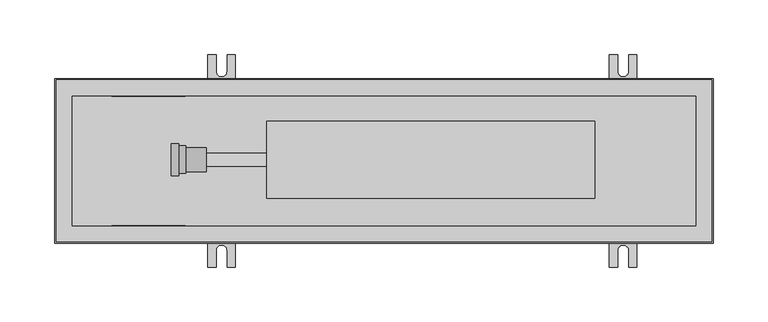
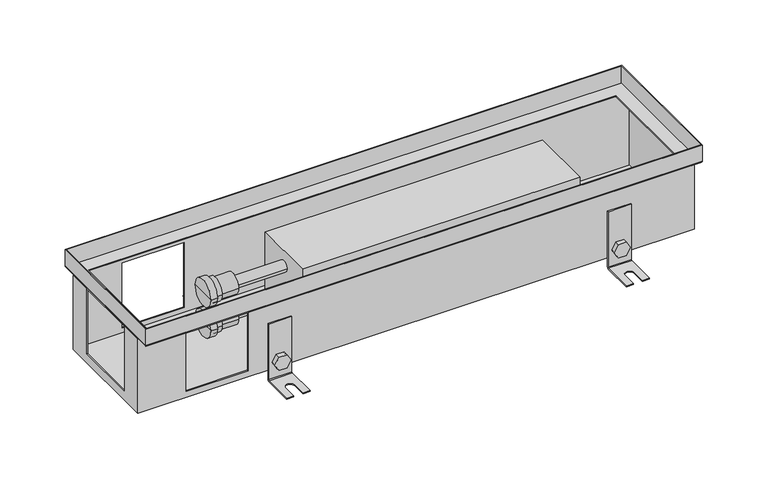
"""IFC4 building model written with IfcOpenShell, lengths in millimetres: proxy geometry, TECHNO_Конвектор встраиваемый_Power_KVZ_150_65-85-105 : KVZ 150-105."""

from ifc_helpers import new_model, si_unit, point, frame, frame_2d, origin, place, context, project, spatial, polyline, circle_curve, ellipse_curve, trimmed, segment, composite_curve, outline, extrude, faceted_brep, source, transform, mapped, element, save
from ifc_brep_helpers import plane_surface, cylinder_surface, revolved_surface, advanced_brep


def mechanical_equipment_09c1ba0b(model_context):
    return source(origin(), model_context, "Body", "SolidModel", [
        extrude(outline(composite_curve([segment(trimmed(circle_curve(frame_2d((-95.5, 518.0)), 7.5), [point((-95.5, 510.5))], [point((-95.5, 525.5))], False, "CARTESIAN"), True, "CONTINUOUS"), segment(trimmed(circle_curve(frame_2d((-95.5, 518.0)), 7.5), [point((-95.5, 525.5))], [point((-95.5, 510.5))], False, "CARTESIAN"), True, "CONTINUOUS")], self_intersect=False)), frame((0.0, 60.2, 0.0), z_axis=(0.0, 1.0, 0.0), x_axis=(0.0, 0.0, 1.0)), (0.0, 0.0, 1.0), 1.5),
        extrude(outline(polyline([(-95.5, 509.339746), (-103.0, 513.669873), (-103.0, 522.330127), (-95.5, 526.660254), (-88.0, 522.330127), (-88.0, 513.669873), (-95.5, 509.339746)])), frame((0.0, 62.9, 0.0), z_axis=(0.0, 1.0, 0.0), x_axis=(0.0, 0.0, 1.0)), (0.0, 0.0, 1.0), 5.1),
        advanced_brep(
        [(530.5, 62.9, -50.5), (530.5, 61.7, -50.5), (530.5, 61.7, -113.5), (530.5, 63.7, -115.5), (530.5, 96.7, -115.5), (530.5, 96.7, -114.3), (530.5, 63.7, -114.3), (530.5, 62.9, -113.5), (505.5, 62.9, -50.5), (505.5, 62.9, -113.5), (505.5, 63.7, -114.3), (505.5, 96.7, -114.3), (505.5, 96.7, -115.5), (505.5, 63.7, -115.5), (505.5, 61.7, -113.5), (505.5, 61.7, -50.5), (523.0, 96.7, -114.3), (523.0, 81.7, -114.3), (513.0, 81.7, -114.3), (513.0, 96.7, -114.3), (513.0, 96.7, -115.5), (523.0, 96.7, -115.5), (513.0, 81.7, -115.5), (523.0, 81.7, -115.5)],
        [
            (0, 1),
            (1, 2),
            (2, 3, circle_curve(frame((530.5, 63.7, -113.5), z_axis=(1.0, 0.0, 0.0), x_axis=(0.0, 1.0, 0.0)), 2.0)),
            (3, 4),
            (4, 5),
            (5, 6),
            (6, 7, circle_curve(frame((530.5, 63.7, -113.5), z_axis=(-1.0, 0.0, 0.0), x_axis=(0.0, 1.0, 0.0)), 0.8)),
            (7, 0),
            (8, 9),
            (9, 10, circle_curve(frame((505.5, 63.7, -113.5), z_axis=(1.0, 0.0, 0.0), x_axis=(0.0, 1.0, 0.0)), 0.8)),
            (10, 11),
            (11, 12),
            (12, 13),
            (13, 14, circle_curve(frame((505.5, 63.7, -113.5), z_axis=(-1.0, 0.0, 0.0), x_axis=(0.0, 1.0, 0.0)), 2.0)),
            (14, 15),
            (15, 8),
            (7, 9),
            (8, 0),
            (6, 10),
            (5, 16),
            (16, 17),
            (17, 18, circle_curve(frame((518.0, 81.7, -114.3), z_axis=(0.0, 0.0, -1.0), x_axis=(1.0, 0.0, 0.0)), 5.0)),
            (18, 19),
            (19, 11),
            (19, 20),
            (20, 12),
            (4, 21),
            (21, 16),
            (3, 13),
            (20, 22),
            (22, 23, circle_curve(frame((518.0, 81.7, -115.5), z_axis=(0.0, 0.0, 1.0), x_axis=(1.0, 0.0, 0.0)), 5.0)),
            (23, 21),
            (2, 14),
            (1, 15),
            (18, 22),
            (23, 17),
        ],
        [
            plane_surface(frame((530.5, 62.9, -50.5), z_axis=(1.0, 0.0, 0.0), x_axis=(0.0, 0.0, -1.0))),
            plane_surface(frame((505.5, 62.9, -50.5), z_axis=(-1.0, 0.0, 0.0), x_axis=(0.0, 0.0, 1.0))),
            plane_surface(frame((530.5, 62.9, -50.5), z_axis=(0.0, 1.0, 0.0), x_axis=(-1.0, 0.0, 0.0))),
            revolved_surface(polyline([(505.5, 64.5, -113.5), (530.5, 64.5, -113.5)]), (505.5, 63.7, -113.5), (-1.0, 0.0, 0.0)),
            plane_surface(frame((530.5, 63.7, -114.3), z_axis=(0.0, 0.0, 1.0), x_axis=(-1.0, 0.0, 0.0))),
            plane_surface(frame((530.5, 96.7, -114.3), z_axis=(0.0, 1.0, 0.0), x_axis=(-1.0, 0.0, 0.0))),
            plane_surface(frame((530.5, 96.7, -115.5), z_axis=(0.0, 0.0, -1.0), x_axis=(-1.0, 0.0, 0.0))),
            cylinder_surface(frame((505.5, 63.7, -113.5), z_axis=(1.0, 0.0, 0.0), x_axis=(0.0, 1.0, 0.0)), 2.0),
            plane_surface(frame((530.5, 61.7, -113.5), z_axis=(0.0, -1.0, 0.0), x_axis=(-1.0, 0.0, 0.0))),
            plane_surface(frame((530.5, 61.7, -50.5), z_axis=(0.0, 0.0, 1.0), x_axis=(-1.0, 0.0, 0.0))),
            plane_surface(frame((513.0, 81.7, -114.3), z_axis=(1.0, 0.0, 0.0), x_axis=(0.0, 0.0, -1.0))),
            plane_surface(frame((523.0, 96.7, -114.3), z_axis=(-1.0, 0.0, 0.0), x_axis=(0.0, 0.0, -1.0))),
            revolved_surface(polyline([(523.0, 81.7, -114.3), (523.0, 81.7, -115.5)]), (518.0, 81.7, -115.5), (0.0, 0.0, 1.0)),
        ],
        [
            (0, [[1, 2, 3, 4, 5, 6, 7, 8]]),
            (1, [[9, 10, 11, 12, 13, 14, 15, 16]]),
            (2, [[17, -9, 18, -8]]),
            (3, [[19, -10, -17, -7]]),
            (4, [[20, 21, 22, 23, 24, -11, -19, -6]]),
            (5, [[-24, 25, 26, -12]]),
            (5, [[27, 28, -20, -5]]),
            (6, [[29, -13, -26, 30, 31, 32, -27, -4]]),
            (7, [[33, -14, -29, -3]]),
            (8, [[34, -15, -33, -2]]),
            (9, [[-18, -16, -34, -1]]),
            (10, [[-30, -25, -23, 35]]),
            (11, [[-21, -28, -32, 36]]),
            (12, [[-22, -36, -31, -35]]),
        ],
    ),
        extrude(outline(composite_curve([segment(trimmed(circle_curve(frame_2d((-95.5, 518.0)), 7.5), [point((-95.5, 510.5))], [point((-95.5, 525.5))], False, "CARTESIAN"), True, "CONTINUOUS"), segment(trimmed(circle_curve(frame_2d((-95.5, 518.0)), 7.5), [point((-95.5, 525.5))], [point((-95.5, 510.5))], False, "CARTESIAN"), True, "CONTINUOUS")], self_intersect=False)), frame((0.0, -61.7, 0.0), z_axis=(0.0, 1.0, 0.0), x_axis=(0.0, 0.0, 1.0)), (0.0, 0.0, 1.0), 1.5),
        extrude(outline(polyline([(-95.5, 509.339746), (-103.0, 513.669873), (-103.0, 522.330127), (-95.5, 526.660254), (-88.0, 522.330127), (-88.0, 513.669873), (-95.5, 509.339746)])), frame((0.0, -68.0, 0.0), z_axis=(0.0, 1.0, 0.0), x_axis=(0.0, 0.0, 1.0)), (0.0, 0.0, 1.0), 5.1),
        advanced_brep(
        [(530.5, -62.9, -50.5), (530.5, -62.9, -113.5), (530.5, -63.7, -114.3), (530.5, -96.7, -114.3), (530.5, -96.7, -115.5), (530.5, -63.7, -115.5), (530.5, -61.7, -113.5), (530.5, -61.7, -50.5), (505.5, -62.9, -50.5), (505.5, -61.7, -50.5), (505.5, -61.7, -113.5), (505.5, -63.7, -115.5), (505.5, -96.7, -115.5), (505.5, -96.7, -114.3), (505.5, -63.7, -114.3), (505.5, -62.9, -113.5), (513.0, -96.7, -114.3), (513.0, -81.7, -114.3), (523.0, -81.7, -114.3), (523.0, -96.7, -114.3), (523.0, -96.7, -115.5), (513.0, -96.7, -115.5), (523.0, -81.7, -115.5), (513.0, -81.7, -115.5)],
        [
            (0, 1),
            (1, 2, circle_curve(frame((530.5, -63.7, -113.5), z_axis=(-1.0, 0.0, 0.0), x_axis=(0.0, -1.0, 0.0)), 0.8)),
            (2, 3),
            (3, 4),
            (4, 5),
            (5, 6, circle_curve(frame((530.5, -63.7, -113.5), z_axis=(1.0, 0.0, 0.0), x_axis=(0.0, -1.0, 0.0)), 2.0)),
            (6, 7),
            (7, 0),
            (8, 9),
            (9, 10),
            (10, 11, circle_curve(frame((505.5, -63.7, -113.5), z_axis=(-1.0, 0.0, 0.0), x_axis=(0.0, -1.0, 0.0)), 2.0)),
            (11, 12),
            (12, 13),
            (13, 14),
            (14, 15, circle_curve(frame((505.5, -63.7, -113.5), z_axis=(1.0, 0.0, 0.0), x_axis=(0.0, -1.0, 0.0)), 0.8)),
            (15, 8),
            (0, 8),
            (15, 1),
            (14, 2),
            (13, 16),
            (16, 17),
            (17, 18, circle_curve(frame((518.0, -81.7, -114.3), z_axis=(0.0, 0.0, -1.0), x_axis=(1.0, 0.0, 0.0)), 5.0)),
            (18, 19),
            (19, 3),
            (19, 20),
            (20, 4),
            (12, 21),
            (21, 16),
            (20, 22),
            (22, 23, circle_curve(frame((518.0, -81.7, -115.5), z_axis=(0.0, 0.0, 1.0), x_axis=(1.0, 0.0, 0.0)), 5.0)),
            (23, 21),
            (11, 5),
            (10, 6),
            (9, 7),
            (23, 17),
            (18, 22),
        ],
        [
            plane_surface(frame((530.5, -62.9, -50.5), z_axis=(1.0, 0.0, 0.0), x_axis=(0.0, 0.0, -1.0))),
            plane_surface(frame((505.5, -62.9, -50.5), z_axis=(-1.0, 0.0, 0.0), x_axis=(0.0, 0.0, 1.0))),
            plane_surface(frame((530.5, -62.9, -50.5), z_axis=(0.0, -1.0, 0.0), x_axis=(-1.0, 0.0, 0.0))),
            revolved_surface(polyline([(505.5, -64.5, -113.5), (530.5, -64.5, -113.5)]), (505.5, -63.7, -113.5), (-1.0, 0.0, 0.0)),
            plane_surface(frame((530.5, -63.7, -114.3), z_axis=(0.0, 0.0, 1.0), x_axis=(-1.0, 0.0, 0.0))),
            plane_surface(frame((530.5, -96.7, -114.3), z_axis=(0.0, -1.0, 0.0), x_axis=(-1.0, 0.0, 0.0))),
            plane_surface(frame((530.5, -96.7, -115.5), z_axis=(0.0, 0.0, -1.0), x_axis=(-1.0, 0.0, 0.0))),
            cylinder_surface(frame((505.5, -63.7, -113.5), z_axis=(1.0, 0.0, 0.0), x_axis=(0.0, -1.0, 0.0)), 2.0),
            plane_surface(frame((530.5, -61.7, -113.5), z_axis=(0.0, 1.0, 0.0), x_axis=(-1.0, 0.0, 0.0))),
            plane_surface(frame((530.5, -61.7, -50.5), z_axis=(0.0, 0.0, 1.0), x_axis=(-1.0, 0.0, 0.0))),
            plane_surface(frame((513.0, -81.7, -114.3), z_axis=(1.0, 0.0, 0.0), x_axis=(0.0, 0.0, -1.0))),
            plane_surface(frame((523.0, -96.7, -114.3), z_axis=(-1.0, 0.0, 0.0), x_axis=(0.0, 0.0, -1.0))),
            revolved_surface(polyline([(523.0, -81.7, -114.3), (523.0, -81.7, -115.5)]), (518.0, -81.7, -115.5), (0.0, 0.0, 1.0)),
        ],
        [
            (0, [[1, 2, 3, 4, 5, 6, 7, 8]]),
            (1, [[9, 10, 11, 12, 13, 14, 15, 16]]),
            (2, [[-1, 17, -16, 18]]),
            (3, [[-2, -18, -15, 19]]),
            (4, [[-3, -19, -14, 20, 21, 22, 23, 24]]),
            (5, [[-4, -24, 25, 26]]),
            (5, [[-13, 27, 28, -20]]),
            (6, [[-5, -26, 29, 30, 31, -27, -12, 32]]),
            (7, [[-6, -32, -11, 33]]),
            (8, [[-7, -33, -10, 34]]),
            (9, [[-8, -34, -9, -17]]),
            (10, [[35, -21, -28, -31]]),
            (11, [[36, -29, -25, -23]]),
            (12, [[-35, -30, -36, -22]]),
        ],
    ),
        extrude(outline(composite_curve([segment(trimmed(circle_curve(frame_2d((-95.5, 152.0)), 7.5), [point((-95.5, 144.5))], [point((-95.5, 159.5))], False, "CARTESIAN"), True, "CONTINUOUS"), segment(trimmed(circle_curve(frame_2d((-95.5, 152.0)), 7.5), [point((-95.5, 159.5))], [point((-95.5, 144.5))], False, "CARTESIAN"), True, "CONTINUOUS")], self_intersect=False)), frame((0.0, 60.2, 0.0), z_axis=(0.0, 1.0, 0.0), x_axis=(0.0, 0.0, 1.0)), (0.0, 0.0, 1.0), 1.5),
        extrude(outline(polyline([(-95.5, 143.339746), (-103.0, 147.669873), (-103.0, 156.330127), (-95.5, 160.660254), (-88.0, 156.330127), (-88.0, 147.669873), (-95.5, 143.339746)])), frame((0.0, 62.9, 0.0), z_axis=(0.0, 1.0, 0.0), x_axis=(0.0, 0.0, 1.0)), (0.0, 0.0, 1.0), 5.1),
        advanced_brep(
        [(164.5, 62.9, -50.5), (164.5, 61.7, -50.5), (164.5, 61.7, -113.5), (164.5, 63.7, -115.5), (164.5, 96.7, -115.5), (164.5, 96.7, -114.3), (164.5, 63.7, -114.3), (164.5, 62.9, -113.5), (139.5, 62.9, -50.5), (139.5, 62.9, -113.5), (139.5, 63.7, -114.3), (139.5, 96.7, -114.3), (139.5, 96.7, -115.5), (139.5, 63.7, -115.5), (139.5, 61.7, -113.5), (139.5, 61.7, -50.5), (157.0, 96.7, -114.3), (157.0, 81.7, -114.3), (147.0, 81.7, -114.3), (147.0, 96.7, -114.3), (147.0, 96.7, -115.5), (157.0, 96.7, -115.5), (147.0, 81.7, -115.5), (157.0, 81.7, -115.5)],
        [
            (0, 1),
            (1, 2),
            (2, 3, circle_curve(frame((164.5, 63.7, -113.5), z_axis=(1.0, 0.0, 0.0), x_axis=(0.0, 1.0, 0.0)), 2.0)),
            (3, 4),
            (4, 5),
            (5, 6),
            (6, 7, circle_curve(frame((164.5, 63.7, -113.5), z_axis=(-1.0, 0.0, 0.0), x_axis=(0.0, 1.0, 0.0)), 0.8)),
            (7, 0),
            (8, 9),
            (9, 10, circle_curve(frame((139.5, 63.7, -113.5), z_axis=(1.0, 0.0, 0.0), x_axis=(0.0, 1.0, 0.0)), 0.8)),
            (10, 11),
            (11, 12),
            (12, 13),
            (13, 14, circle_curve(frame((139.5, 63.7, -113.5), z_axis=(-1.0, 0.0, 0.0), x_axis=(0.0, 1.0, 0.0)), 2.0)),
            (14, 15),
            (15, 8),
            (7, 9),
            (8, 0),
            (6, 10),
            (5, 16),
            (16, 17),
            (17, 18, circle_curve(frame((152.0, 81.7, -114.3), z_axis=(0.0, 0.0, -1.0), x_axis=(1.0, 0.0, 0.0)), 5.0)),
            (18, 19),
            (19, 11),
            (19, 20),
            (20, 12),
            (4, 21),
            (21, 16),
            (3, 13),
            (20, 22),
            (22, 23, circle_curve(frame((152.0, 81.7, -115.5), z_axis=(0.0, 0.0, 1.0), x_axis=(1.0, 0.0, 0.0)), 5.0)),
            (23, 21),
            (2, 14),
            (1, 15),
            (18, 22),
            (23, 17),
        ],
        [
            plane_surface(frame((164.5, 62.9, -50.5), z_axis=(1.0, 0.0, 0.0), x_axis=(0.0, 0.0, -1.0))),
            plane_surface(frame((139.5, 62.9, -50.5), z_axis=(-1.0, 0.0, 0.0), x_axis=(0.0, 0.0, 1.0))),
            plane_surface(frame((164.5, 62.9, -50.5), z_axis=(0.0, 1.0, 0.0), x_axis=(-1.0, 0.0, 0.0))),
            revolved_surface(polyline([(139.5, 64.5, -113.5), (164.5, 64.5, -113.5)]), (139.5, 63.7, -113.5), (-1.0, 0.0, 0.0)),
            plane_surface(frame((164.5, 63.7, -114.3), z_axis=(0.0, 0.0, 1.0), x_axis=(-1.0, 0.0, 0.0))),
            plane_surface(frame((164.5, 96.7, -114.3), z_axis=(0.0, 1.0, 0.0), x_axis=(-1.0, 0.0, 0.0))),
            plane_surface(frame((164.5, 96.7, -115.5), z_axis=(0.0, 0.0, -1.0), x_axis=(-1.0, 0.0, 0.0))),
            cylinder_surface(frame((139.5, 63.7, -113.5), z_axis=(1.0, 0.0, 0.0), x_axis=(0.0, 1.0, 0.0)), 2.0),
            plane_surface(frame((164.5, 61.7, -113.5), z_axis=(0.0, -1.0, 0.0), x_axis=(-1.0, 0.0, 0.0))),
            plane_surface(frame((164.5, 61.7, -50.5), z_axis=(0.0, 0.0, 1.0), x_axis=(-1.0, 0.0, 0.0))),
            plane_surface(frame((147.0, 81.7, -114.3), z_axis=(1.0, 0.0, 0.0), x_axis=(0.0, 0.0, -1.0))),
            plane_surface(frame((157.0, 96.7, -114.3), z_axis=(-1.0, 0.0, 0.0), x_axis=(0.0, 0.0, -1.0))),
            revolved_surface(polyline([(157.0, 81.7, -114.3), (157.0, 81.7, -115.5)]), (152.0, 81.7, -115.5), (0.0, 0.0, 1.0)),
        ],
        [
            (0, [[1, 2, 3, 4, 5, 6, 7, 8]]),
            (1, [[9, 10, 11, 12, 13, 14, 15, 16]]),
            (2, [[17, -9, 18, -8]]),
            (3, [[19, -10, -17, -7]]),
            (4, [[20, 21, 22, 23, 24, -11, -19, -6]]),
            (5, [[-24, 25, 26, -12]]),
            (5, [[27, 28, -20, -5]]),
            (6, [[29, -13, -26, 30, 31, 32, -27, -4]]),
            (7, [[33, -14, -29, -3]]),
            (8, [[34, -15, -33, -2]]),
            (9, [[-18, -16, -34, -1]]),
            (10, [[-30, -25, -23, 35]]),
            (11, [[-21, -28, -32, 36]]),
            (12, [[-22, -36, -31, -35]]),
        ],
    ),
        extrude(outline(composite_curve([segment(trimmed(circle_curve(frame_2d((-95.5, 152.0)), 7.5), [point((-95.5, 144.5))], [point((-95.5, 159.5))], False, "CARTESIAN"), True, "CONTINUOUS"), segment(trimmed(circle_curve(frame_2d((-95.5, 152.0)), 7.5), [point((-95.5, 159.5))], [point((-95.5, 144.5))], False, "CARTESIAN"), True, "CONTINUOUS")], self_intersect=False)), frame((0.0, -61.7, 0.0), z_axis=(0.0, 1.0, 0.0), x_axis=(0.0, 0.0, 1.0)), (0.0, 0.0, 1.0), 1.5),
        extrude(outline(polyline([(-95.5, 143.339746), (-103.0, 147.669873), (-103.0, 156.330127), (-95.5, 160.660254), (-88.0, 156.330127), (-88.0, 147.669873), (-95.5, 143.339746)])), frame((0.0, -68.0, 0.0), z_axis=(0.0, 1.0, 0.0), x_axis=(0.0, 0.0, 1.0)), (0.0, 0.0, 1.0), 5.1),
        advanced_brep(
        [(164.5, -62.9, -50.5), (164.5, -62.9, -113.5), (164.5, -63.7, -114.3), (164.5, -96.7, -114.3), (164.5, -96.7, -115.5), (164.5, -63.7, -115.5), (164.5, -61.7, -113.5), (164.5, -61.7, -50.5), (139.5, -62.9, -50.5), (139.5, -61.7, -50.5), (139.5, -61.7, -113.5), (139.5, -63.7, -115.5), (139.5, -96.7, -115.5), (139.5, -96.7, -114.3), (139.5, -63.7, -114.3), (139.5, -62.9, -113.5), (147.0, -96.7, -114.3), (147.0, -81.7, -114.3), (157.0, -81.7, -114.3), (157.0, -96.7, -114.3), (157.0, -96.7, -115.5), (147.0, -96.7, -115.5), (157.0, -81.7, -115.5), (147.0, -81.7, -115.5)],
        [
            (0, 1),
            (1, 2, circle_curve(frame((164.5, -63.7, -113.5), z_axis=(-1.0, 0.0, 0.0), x_axis=(0.0, -1.0, 0.0)), 0.8)),
            (2, 3),
            (3, 4),
            (4, 5),
            (5, 6, circle_curve(frame((164.5, -63.7, -113.5), z_axis=(1.0, 0.0, 0.0), x_axis=(0.0, -1.0, 0.0)), 2.0)),
            (6, 7),
            (7, 0),
            (8, 9),
            (9, 10),
            (10, 11, circle_curve(frame((139.5, -63.7, -113.5), z_axis=(-1.0, 0.0, 0.0), x_axis=(0.0, -1.0, 0.0)), 2.0)),
            (11, 12),
            (12, 13),
            (13, 14),
            (14, 15, circle_curve(frame((139.5, -63.7, -113.5), z_axis=(1.0, 0.0, 0.0), x_axis=(0.0, -1.0, 0.0)), 0.8)),
            (15, 8),
            (0, 8),
            (15, 1),
            (14, 2),
            (13, 16),
            (16, 17),
            (17, 18, circle_curve(frame((152.0, -81.7, -114.3), z_axis=(0.0, 0.0, -1.0), x_axis=(1.0, 0.0, 0.0)), 5.0)),
            (18, 19),
            (19, 3),
            (19, 20),
            (20, 4),
            (12, 21),
            (21, 16),
            (20, 22),
            (22, 23, circle_curve(frame((152.0, -81.7, -115.5), z_axis=(0.0, 0.0, 1.0), x_axis=(1.0, 0.0, 0.0)), 5.0)),
            (23, 21),
            (11, 5),
            (10, 6),
            (9, 7),
            (23, 17),
            (18, 22),
        ],
        [
            plane_surface(frame((164.5, -62.9, -50.5), z_axis=(1.0, 0.0, 0.0), x_axis=(0.0, 0.0, -1.0))),
            plane_surface(frame((139.5, -62.9, -50.5), z_axis=(-1.0, 0.0, 0.0), x_axis=(0.0, 0.0, 1.0))),
            plane_surface(frame((164.5, -62.9, -50.5), z_axis=(0.0, -1.0, 0.0), x_axis=(-1.0, 0.0, 0.0))),
            revolved_surface(polyline([(139.5, -64.5, -113.5), (164.5, -64.5, -113.5)]), (139.5, -63.7, -113.5), (-1.0, 0.0, 0.0)),
            plane_surface(frame((164.5, -63.7, -114.3), z_axis=(0.0, 0.0, 1.0), x_axis=(-1.0, 0.0, 0.0))),
            plane_surface(frame((164.5, -96.7, -114.3), z_axis=(0.0, -1.0, 0.0), x_axis=(-1.0, 0.0, 0.0))),
            plane_surface(frame((164.5, -96.7, -115.5), z_axis=(0.0, 0.0, -1.0), x_axis=(-1.0, 0.0, 0.0))),
            cylinder_surface(frame((139.5, -63.7, -113.5), z_axis=(1.0, 0.0, 0.0), x_axis=(0.0, -1.0, 0.0)), 2.0),
            plane_surface(frame((164.5, -61.7, -113.5), z_axis=(0.0, 1.0, 0.0), x_axis=(-1.0, 0.0, 0.0))),
            plane_surface(frame((164.5, -61.7, -50.5), z_axis=(0.0, 0.0, 1.0), x_axis=(-1.0, 0.0, 0.0))),
            plane_surface(frame((147.0, -81.7, -114.3), z_axis=(1.0, 0.0, 0.0), x_axis=(0.0, 0.0, -1.0))),
            plane_surface(frame((157.0, -96.7, -114.3), z_axis=(-1.0, 0.0, 0.0), x_axis=(0.0, 0.0, -1.0))),
            revolved_surface(polyline([(157.0, -81.7, -114.3), (157.0, -81.7, -115.5)]), (152.0, -81.7, -115.5), (0.0, 0.0, 1.0)),
        ],
        [
            (0, [[1, 2, 3, 4, 5, 6, 7, 8]]),
            (1, [[9, 10, 11, 12, 13, 14, 15, 16]]),
            (2, [[-1, 17, -16, 18]]),
            (3, [[-2, -18, -15, 19]]),
            (4, [[-3, -19, -14, 20, 21, 22, 23, 24]]),
            (5, [[-4, -24, 25, 26]]),
            (5, [[-13, 27, 28, -20]]),
            (6, [[-5, -26, 29, 30, 31, -27, -12, 32]]),
            (7, [[-6, -32, -11, 33]]),
            (8, [[-7, -33, -10, 34]]),
            (9, [[-8, -34, -9, -17]]),
            (10, [[35, -21, -28, -31]]),
            (11, [[36, -29, -25, -23]]),
            (12, [[-35, -30, -36, -22]]),
        ],
    ),
        extrude(outline(composite_curve([segment(trimmed(circle_curve(frame_2d((1.2, -41.5)), 6.0), [point((-4.8, -41.5))], [point((7.2, -41.5))], False, "CARTESIAN"), True, "CONTINUOUS"), segment(trimmed(circle_curve(frame_2d((1.2, -41.5)), 6.0), [point((7.2, -41.5))], [point((-4.8, -41.5))], False, "CARTESIAN"), True, "CONTINUOUS")], self_intersect=False)), frame((138.0, 0.0, 0.0), z_axis=(1.0, 0.0, 0.0), x_axis=(0.0, 1.0, 0.0)), (0.0, 0.0, 1.0), 55.0),
        advanced_brep(
        [(138.0, -9.8, -76.5), (138.0, 12.2, -76.5), (138.0, 1.2, -76.5), (119.5, -9.8, -76.5), (119.5, 12.2, -76.5), (119.5, -11.3, -76.5), (119.5, 13.7, -76.5), (113.0, -11.3, -76.5), (113.0, 13.7, -76.5), (113.0, -13.5, -76.5), (113.0, 15.9, -76.5), (106.0, -13.5, -76.5), (106.0, 15.9, -76.5), (106.0, 1.2, -76.5)],
        [
            (0, 1, circle_curve(frame((138.0, 1.2, -76.5), z_axis=(1.0, 0.0, 0.0), x_axis=(0.0, 1.0, 0.0)), 11.0)),
            (1, 2),
            (2, 0),
            (1, 0, circle_curve(frame((138.0, 1.2, -76.5), z_axis=(1.0, 0.0, 0.0), x_axis=(0.0, 1.0, 0.0)), 11.0)),
            (3, 4, circle_curve(frame((119.5, 1.2, -76.5), z_axis=(1.0, 0.0, 0.0), x_axis=(0.0, 1.0, 0.0)), 11.0)),
            (4, 1),
            (0, 3),
            (4, 3, circle_curve(frame((119.5, 1.2, -76.5), z_axis=(1.0, 0.0, 0.0), x_axis=(0.0, 1.0, 0.0)), 11.0)),
            (5, 6, circle_curve(frame((119.5, 1.2, -76.5), z_axis=(1.0, 0.0, 0.0), x_axis=(0.0, 1.0, 0.0)), 12.5)),
            (6, 4),
            (3, 5),
            (6, 5, circle_curve(frame((119.5, 1.2, -76.5), z_axis=(1.0, 0.0, 0.0), x_axis=(0.0, 1.0, 0.0)), 12.5)),
            (7, 8, circle_curve(frame((113.0, 1.2, -76.5), z_axis=(1.0, 0.0, 0.0), x_axis=(0.0, 1.0, 0.0)), 12.5)),
            (8, 6),
            (5, 7),
            (8, 7, circle_curve(frame((113.0, 1.2, -76.5), z_axis=(1.0, 0.0, 0.0), x_axis=(0.0, 1.0, 0.0)), 12.5)),
            (9, 10, circle_curve(frame((113.0, 1.2, -76.5), z_axis=(1.0, 0.0, 0.0), x_axis=(0.0, 1.0, 0.0)), 14.7)),
            (10, 8),
            (7, 9),
            (10, 9, circle_curve(frame((113.0, 1.2, -76.5), z_axis=(1.0, 0.0, 0.0), x_axis=(0.0, 1.0, 0.0)), 14.7)),
            (11, 12, circle_curve(frame((106.0, 1.2, -76.5), z_axis=(1.0, 0.0, 0.0), x_axis=(0.0, 1.0, 0.0)), 14.7)),
            (12, 10),
            (9, 11),
            (12, 11, circle_curve(frame((106.0, 1.2, -76.5), z_axis=(1.0, 0.0, 0.0), x_axis=(0.0, 1.0, 0.0)), 14.7)),
            (13, 12),
            (11, 13),
        ],
        [
            plane_surface(frame((138.0, 1.2, -76.5), z_axis=(1.0, 0.0, 0.0), x_axis=(0.0, 1.0, 0.0))),
            cylinder_surface(frame((96.0, 1.2, -76.5), z_axis=(-1.0, 0.0, 0.0), x_axis=(0.0, 1.0, 0.0)), 11.0),
            plane_surface(frame((119.5, 1.2, -76.5), z_axis=(1.0, 0.0, 0.0), x_axis=(0.0, 1.0, 0.0))),
            cylinder_surface(frame((96.0, 1.2, -76.5), z_axis=(-1.0, 0.0, 0.0), x_axis=(0.0, 1.0, 0.0)), 12.5),
            plane_surface(frame((113.0, 1.2, -76.5), z_axis=(1.0, 0.0, 0.0), x_axis=(0.0, 1.0, 0.0))),
            cylinder_surface(frame((96.0, 1.2, -76.5), z_axis=(-1.0, 0.0, 0.0), x_axis=(0.0, 1.0, 0.0)), 14.7),
            plane_surface(frame((106.0, 1.2, -76.5), z_axis=(-1.0, 0.0, 0.0), x_axis=(0.0, 1.0, 0.0))),
        ],
        [
            (0, [[1, 2, 3]]),
            (0, [[4, -3, -2]]),
            (1, [[5, 6, -1, 7]]),
            (1, [[8, -7, -4, -6]]),
            (2, [[9, 10, -5, 11]]),
            (2, [[12, -11, -8, -10]]),
            (3, [[13, 14, -9, 15]]),
            (3, [[16, -15, -12, -14]]),
            (4, [[17, 18, -13, 19]]),
            (4, [[20, -19, -16, -18]]),
            (5, [[21, 22, -17, 23]]),
            (5, [[24, -23, -20, -22]]),
            (6, [[25, -21, 26]]),
            (6, [[-26, -24, -25]]),
        ],
    ),
        advanced_brep(
        [(138.0, -9.8, -41.5), (138.0, 12.2, -41.5), (138.0, 1.2, -41.5), (119.5, -9.8, -41.5), (119.5, 12.2, -41.5), (119.5, -11.3, -41.5), (119.5, 13.7, -41.5), (113.0, -11.3, -41.5), (113.0, 13.7, -41.5), (113.0, -13.5, -41.5), (113.0, 15.9, -41.5), (106.0, -13.5, -41.5), (106.0, 15.9, -41.5), (106.0, 1.2, -41.5)],
        [
            (0, 1, circle_curve(frame((138.0, 1.2, -41.5), z_axis=(1.0, 0.0, 0.0), x_axis=(0.0, 1.0, 0.0)), 11.0)),
            (1, 2),
            (2, 0),
            (1, 0, circle_curve(frame((138.0, 1.2, -41.5), z_axis=(1.0, 0.0, 0.0), x_axis=(0.0, 1.0, 0.0)), 11.0)),
            (3, 4, circle_curve(frame((119.5, 1.2, -41.5), z_axis=(1.0, 0.0, 0.0), x_axis=(0.0, 1.0, 0.0)), 11.0)),
            (4, 1),
            (0, 3),
            (4, 3, circle_curve(frame((119.5, 1.2, -41.5), z_axis=(1.0, 0.0, 0.0), x_axis=(0.0, 1.0, 0.0)), 11.0)),
            (5, 6, circle_curve(frame((119.5, 1.2, -41.5), z_axis=(1.0, 0.0, 0.0), x_axis=(0.0, 1.0, 0.0)), 12.5)),
            (6, 4),
            (3, 5),
            (6, 5, circle_curve(frame((119.5, 1.2, -41.5), z_axis=(1.0, 0.0, 0.0), x_axis=(0.0, 1.0, 0.0)), 12.5)),
            (7, 8, circle_curve(frame((113.0, 1.2, -41.5), z_axis=(1.0, 0.0, 0.0), x_axis=(0.0, 1.0, 0.0)), 12.5)),
            (8, 6),
            (5, 7),
            (8, 7, circle_curve(frame((113.0, 1.2, -41.5), z_axis=(1.0, 0.0, 0.0), x_axis=(0.0, 1.0, 0.0)), 12.5)),
            (9, 10, circle_curve(frame((113.0, 1.2, -41.5), z_axis=(1.0, 0.0, 0.0), x_axis=(0.0, 1.0, 0.0)), 14.7)),
            (10, 8),
            (7, 9),
            (10, 9, circle_curve(frame((113.0, 1.2, -41.5), z_axis=(1.0, 0.0, 0.0), x_axis=(0.0, 1.0, 0.0)), 14.7)),
            (11, 12, circle_curve(frame((106.0, 1.2, -41.5), z_axis=(1.0, 0.0, 0.0), x_axis=(0.0, 1.0, 0.0)), 14.7)),
            (12, 10),
            (9, 11),
            (12, 11, circle_curve(frame((106.0, 1.2, -41.5), z_axis=(1.0, 0.0, 0.0), x_axis=(0.0, 1.0, 0.0)), 14.7)),
            (13, 12),
            (11, 13),
        ],
        [
            plane_surface(frame((138.0, 1.2, -41.5), z_axis=(1.0, 0.0, 0.0), x_axis=(0.0, 1.0, 0.0))),
            cylinder_surface(frame((96.0, 1.2, -41.5), z_axis=(-1.0, 0.0, 0.0), x_axis=(0.0, 1.0, 0.0)), 11.0),
            plane_surface(frame((119.5, 1.2, -41.5), z_axis=(1.0, 0.0, 0.0), x_axis=(0.0, 1.0, 0.0))),
            cylinder_surface(frame((96.0, 1.2, -41.5), z_axis=(-1.0, 0.0, 0.0), x_axis=(0.0, 1.0, 0.0)), 12.5),
            plane_surface(frame((113.0, 1.2, -41.5), z_axis=(1.0, 0.0, 0.0), x_axis=(0.0, 1.0, 0.0))),
            cylinder_surface(frame((96.0, 1.2, -41.5), z_axis=(-1.0, 0.0, 0.0), x_axis=(0.0, 1.0, 0.0)), 14.7),
            plane_surface(frame((106.0, 1.2, -41.5), z_axis=(-1.0, 0.0, 0.0), x_axis=(0.0, 1.0, 0.0))),
        ],
        [
            (0, [[1, 2, 3]]),
            (0, [[4, -3, -2]]),
            (1, [[5, 6, -1, 7]]),
            (1, [[8, -7, -4, -6]]),
            (2, [[9, 10, -5, 11]]),
            (2, [[12, -11, -8, -10]]),
            (3, [[13, 14, -9, 15]]),
            (3, [[16, -15, -12, -14]]),
            (4, [[17, 18, -13, 19]]),
            (4, [[20, -19, -16, -18]]),
            (5, [[21, 22, -17, 23]]),
            (5, [[24, -23, -20, -22]]),
            (6, [[25, -21, 26]]),
            (6, [[-26, -24, -25]]),
        ],
    ),
        extrude(outline(composite_curve([segment(trimmed(circle_curve(frame_2d((1.2, -76.5)), 6.0), [point((-4.8, -76.5))], [point((7.2, -76.5))], False, "CARTESIAN"), True, "CONTINUOUS"), segment(trimmed(circle_curve(frame_2d((1.2, -76.5)), 6.0), [point((7.2, -76.5))], [point((-4.8, -76.5))], False, "CARTESIAN"), True, "CONTINUOUS")], self_intersect=False)), frame((138.0, 0.0, 0.0), z_axis=(1.0, 0.0, 0.0), x_axis=(0.0, 1.0, 0.0)), (0.0, 0.0, 1.0), 55.0),
        extrude(outline(polyline([(492.0, 36.2), (492.0, -33.8), (193.0, -33.8), (193.0, 36.2), (492.0, 36.2)])), frame((0.0, 0.0, -94.0), z_axis=(0.0, 0.0, 1.0), x_axis=(1.0, 0.0, 0.0)), (0.0, 0.0, 1.0), 70.0),
        faceted_brep([(598.8, -59.0, -103.8), (598.8, 59.0, -103.8), (1.2, 59.0, -103.8), (1.2, -59.0, -103.8), (0.0, -60.2, -105.0), (0.0, 60.2, -105.0), (600.0, 60.2, -105.0), (600.0, -60.2, -105.0), (600.0, -60.2, -20.5), (0.0, -60.2, -20.5), (52.0, -60.2, -24.0), (119.0, -60.2, -24.0), (119.0, -60.2, -98.0), (52.0, -60.2, -98.0), (600.0, 60.2, -20.5), (0.0, 60.2, -20.5), (119.0, 60.2, -24.0), (52.0, 60.2, -24.0), (52.0, 60.2, -98.0), (119.0, 60.2, -98.0), (0.0, 35.0, -94.8), (0.0, 35.0, -20.8), (0.0, -35.0, -20.8), (0.0, -35.0, -94.8), (598.8, -59.0, -20.5), (598.8, 59.0, -20.5), (1.2, -59.0, -20.5), (119.0, -59.0, -24.0), (52.0, -59.0, -24.0), (52.0, -59.0, -98.0), (119.0, -59.0, -98.0), (1.2, 59.0, -20.5), (1.2, 35.0, -20.8), (1.2, 35.0, -94.8), (1.2, -35.0, -94.8), (1.2, -35.0, -20.8), (52.0, 59.0, -24.0), (119.0, 59.0, -24.0), (119.0, 59.0, -98.0), (52.0, 59.0, -98.0)], [[[0, 1, 2, 3]], [[4, 5, 6, 7]], [[4, 7, 8, 9], [10, 11, 12, 13]], [[7, 6, 14, 8]], [[6, 5, 15, 14], [16, 17, 18, 19]], [[5, 4, 9, 15], [20, 21, 22, 23]], [[24, 25, 1, 0]], [[26, 24, 0, 3], [27, 28, 29, 30]], [[31, 26, 3, 2], [32, 33, 34, 35]], [[25, 31, 2, 1], [36, 37, 38, 39]], [[8, 14, 15, 9], [25, 24, 26, 31]], [[27, 11, 10, 28]], [[16, 37, 36, 17]], [[28, 10, 13, 29]], [[17, 36, 39, 18]], [[29, 13, 12, 30]], [[18, 39, 38, 19]], [[11, 27, 30, 12]], [[37, 16, 19, 38]], [[20, 33, 32, 21]], [[21, 32, 35, 22]], [[22, 35, 34, 23]], [[33, 20, 23, 34]]]),
        advanced_brep(
        [(584.0, 59.0, -19.3), (584.0, 59.0, -20.5), (584.0, -59.0, -20.5), (584.0, -59.0, -19.3), (598.8, 73.8, 0.0), (598.8, 73.8, -19.3), (598.8, -73.8, -19.3), (598.8, -73.8, 0.0), (600.0, 75.0, -18.5), (600.0, 75.0, 0.0), (600.0, -75.0, 0.0), (600.0, -75.0, -18.5), (16.0, -59.0, -20.5), (16.0, -59.0, -19.3), (1.2, -73.8, -19.3), (1.2, -73.8, 0.0), (0.0, -75.0, 0.0), (0.0, -75.0, -18.5), (16.0, 59.0, -20.5), (16.0, 59.0, -19.3), (1.2, 73.8, -19.3), (1.2, 73.8, 0.0), (0.0, 75.0, 0.0), (0.0, 75.0, -18.5), (598.0, -73.0, -20.5), (2.0, -73.0, -20.5), (2.0, 73.0, -20.5), (598.0, 73.0, -20.5)],
        [
            (0, 1),
            (1, 2),
            (2, 3),
            (3, 0),
            (4, 5),
            (5, 6),
            (6, 7),
            (7, 4),
            (8, 9),
            (9, 10),
            (10, 11),
            (11, 8),
            (2, 12),
            (12, 13),
            (13, 3),
            (6, 14),
            (14, 15),
            (15, 7),
            (10, 16),
            (16, 17),
            (17, 11),
            (12, 18),
            (18, 19),
            (19, 13),
            (14, 20),
            (20, 21),
            (21, 15),
            (16, 22),
            (22, 23),
            (23, 17),
            (24, 25),
            (25, 26),
            (26, 27),
            (27, 24),
            (1, 18),
            (0, 19),
            (5, 20),
            (4, 21),
            (9, 22),
            (8, 23),
            (27, 8, ellipse_curve(frame((598.0, 73.0, -18.5), z_axis=(0.7071067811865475, -0.7071067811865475, 0.0), x_axis=(0.7071067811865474, 0.7071067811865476, 0.0)), 2.8284271, 2.0)),
            (11, 24, ellipse_curve(frame((598.0, -73.0, -18.5), z_axis=(0.7071067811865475, 0.7071067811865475, 0.0), x_axis=(-0.7071067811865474, 0.7071067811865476, 0.0)), 2.8284271, 2.0)),
            (17, 25, ellipse_curve(frame((2.0, -73.0, -18.5), z_axis=(0.7071067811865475, -0.7071067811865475, 0.0), x_axis=(0.7071067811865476, 0.7071067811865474, 0.0)), 2.8284271, 2.0)),
            (23, 26, ellipse_curve(frame((2.0, 73.0, -18.5), z_axis=(-0.7071067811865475, -0.7071067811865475, 0.0), x_axis=(0.7071067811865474, -0.7071067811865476, 0.0)), 2.8284271, 2.0)),
        ],
        [
            plane_surface(frame((584.0, 59.0, -20.5), z_axis=(-1.0, 0.0, 0.0), x_axis=(0.0, -1.0, 0.0))),
            plane_surface(frame((598.8, 73.8, -19.3), z_axis=(-1.0, 0.0, 0.0), x_axis=(0.0, -1.0, 0.0))),
            plane_surface(frame((600.0, 75.0, 0.0), z_axis=(1.0, 0.0, 0.0), x_axis=(0.0, -1.0, 0.0))),
            plane_surface(frame((584.0, -59.0, -20.5), z_axis=(0.0, 1.0, 0.0), x_axis=(-1.0, 0.0, 0.0))),
            plane_surface(frame((598.8, -73.8, -19.3), z_axis=(0.0, 1.0, 0.0), x_axis=(-1.0, 0.0, 0.0))),
            plane_surface(frame((600.0, -75.0, 0.0), z_axis=(0.0, -1.0, 0.0), x_axis=(-1.0, 0.0, 0.0))),
            plane_surface(frame((16.0, -59.0, -20.5), z_axis=(1.0, 0.0, 0.0), x_axis=(0.0, 1.0, 0.0))),
            plane_surface(frame((1.2, -73.8, -19.3), z_axis=(1.0, 0.0, 0.0), x_axis=(0.0, 1.0, 0.0))),
            plane_surface(frame((0.0, -75.0, 0.0), z_axis=(-1.0, 0.0, 0.0), x_axis=(0.0, 1.0, 0.0))),
            plane_surface(frame((2.0, 73.0, -20.5), z_axis=(0.0, 0.0, -1.0), x_axis=(1.0, 0.0, 0.0))),
            plane_surface(frame((16.0, 59.0, -20.5), z_axis=(0.0, -1.0, 0.0), x_axis=(1.0, 0.0, 0.0))),
            plane_surface(frame((16.0, 59.0, -19.3), z_axis=(0.0, 0.0, 1.0), x_axis=(1.0, 0.0, 0.0))),
            plane_surface(frame((1.2, 73.8, -19.3), z_axis=(0.0, -1.0, 0.0), x_axis=(1.0, 0.0, 0.0))),
            plane_surface(frame((1.2, 73.8, 0.0), z_axis=(0.0, 0.0, 1.0), x_axis=(1.0, 0.0, 0.0))),
            plane_surface(frame((0.0, 75.0, 0.0), z_axis=(0.0, 1.0, 0.0), x_axis=(1.0, 0.0, 0.0))),
            cylinder_surface(frame((598.0, 75.0, -18.5), z_axis=(0.0, 1.0, 0.0), x_axis=(1.0, 0.0, 0.0)), 2.0),
            cylinder_surface(frame((600.0, -73.0, -18.5), z_axis=(1.0, 0.0, 0.0), x_axis=(0.0, -1.0, 0.0)), 2.0),
            cylinder_surface(frame((2.0, -75.0, -18.5), z_axis=(0.0, -1.0, 0.0), x_axis=(-1.0, 0.0, 0.0)), 2.0),
            cylinder_surface(frame((0.0, 73.0, -18.5), z_axis=(-1.0, 0.0, 0.0), x_axis=(0.0, 1.0, 0.0)), 2.0),
        ],
        [
            (0, [[1, 2, 3, 4]]),
            (1, [[5, 6, 7, 8]]),
            (2, [[9, 10, 11, 12]]),
            (3, [[-3, 13, 14, 15]]),
            (4, [[-7, 16, 17, 18]]),
            (5, [[-11, 19, 20, 21]]),
            (6, [[-14, 22, 23, 24]]),
            (7, [[-17, 25, 26, 27]]),
            (8, [[-20, 28, 29, 30]]),
            (9, [[31, 32, 33, 34], [35, -22, -13, -2]]),
            (10, [[-23, -35, -1, 36]]),
            (11, [[37, -25, -16, -6], [-15, -24, -36, -4]]),
            (12, [[-26, -37, -5, 38]]),
            (13, [[39, -28, -19, -10], [-18, -27, -38, -8]]),
            (14, [[-29, -39, -9, 40]]),
            (15, [[41, -12, 42, -34]]),
            (16, [[-42, -21, 43, -31]]),
            (17, [[-43, -30, 44, -32]]),
            (18, [[-44, -40, -41, -33]]),
        ],
    ),
    ])


if __name__ == "__main__":
    model = new_model("IFC4")
    model_context = context("Model", 3, world=origin())
    ifc_project = project(units=[si_unit("LENGTHUNIT", "METRE", prefix="MILLI")], contexts=[model_context])
    site = spatial("IfcSite", under=ifc_project)
    building = spatial("IfcBuilding", under=site)
    placement = place(None, origin())
    mechanical_equipment_shape = mechanical_equipment_09c1ba0b(model_context)
    element("IfcBuildingElementProxy", 1, Name="TECHNO_Конвектор встраиваемый_Power_KVZ_150_65-85-105 : KVZ 150-105", ObjectType="TECHNO_Конвектор встраиваемый_Power_KVZ_150_65-85-105 : KVZ 150-105", at=placement, inside=building, context=model_context, shape_type="MappedRepresentation", body=[
        mapped(mechanical_equipment_shape, transform((0.0, 0.0, 0.0), x_axis=(1.0, 0.0, 0.0), y_axis=(0.0, 1.0, 0.0), z_axis=(0.0, 0.0, 1.0))),
    ])
    save(model, "model.ifc")
